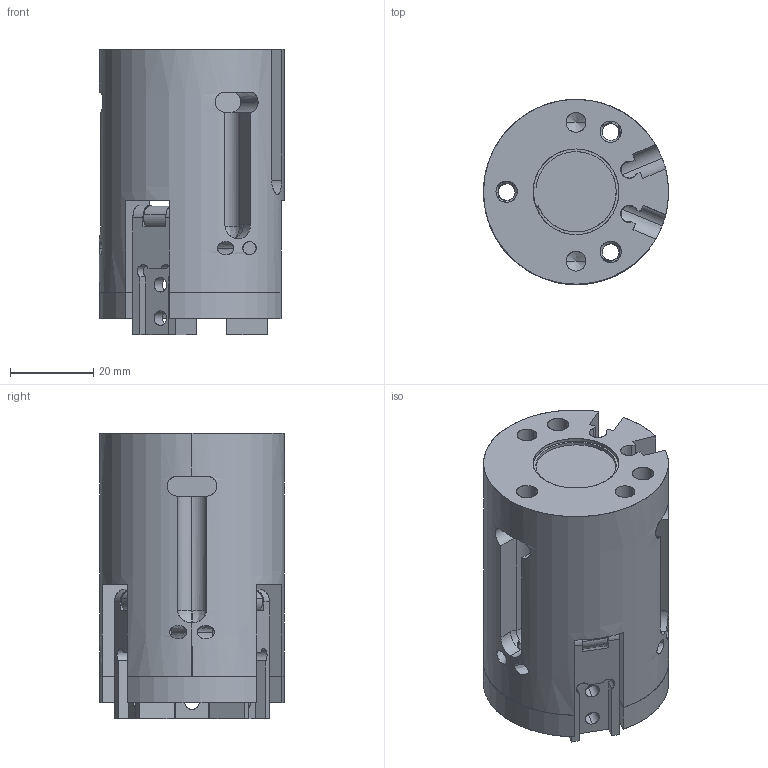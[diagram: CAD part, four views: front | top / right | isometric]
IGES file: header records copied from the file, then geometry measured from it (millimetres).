
Start section: SolidWorks IGES file using analytic representation for surfaces
Global section: file name: C:\Users\jmkuhnes\Pictures\AGA-23\AGA-23 CLOSED in IN.IGS; native system: SolidWorks 2013; preprocessor: SolidWorks 2013; author: jmkuhnes; date: 141104.161352; units: inch
Bounding box: 44.45 x 44.45 x 68.58 mm (x, y, z)
Surface area: 36399 mm2 (no closed solid volume)
Topology: 0 solids, 0 shells, 464 faces, 8877 edges, 8863 vertices
Faces by surface type: revolution 267, bspline 197
